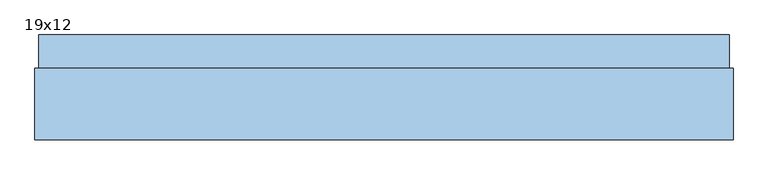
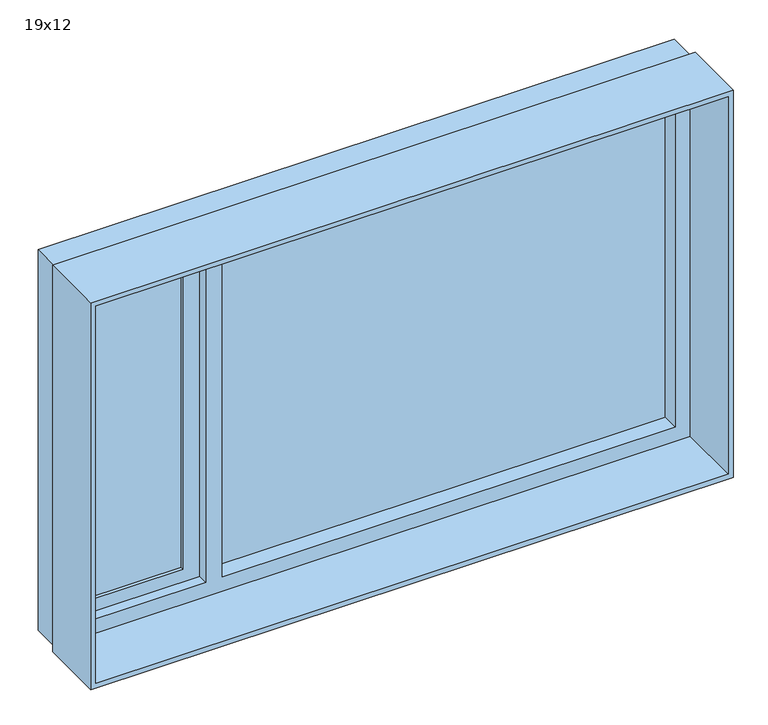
"""IFC4 building model written with IfcOpenShell, lengths in millimetres: window geometry, Vindu 2 felt med åpning side : 19x12."""

from ifc_helpers import new_model, si_unit, frame, origin, place, context, project, spatial, polyline, outline, extrude, source, transform, mapped, element, save


def window_19x12_69b69f61(model_context):
    return source(origin(), model_context, "Body", "SweptSolid", [
        extrude(outline(polyline([(-497.3982693, 95.0), (862.6017307, 95.0), (862.6017307, 75.0), (-497.3982693, 75.0), (-497.3982693, 95.0)])), frame((0.0, 0.0, 860.0), z_axis=(0.0, 0.0, 1.0), x_axis=(1.0, 0.0, 0.0)), (0.0, 0.0, 1.0), 1110.0),
        extrude(outline(polyline([(1970.0, -547.3982693), (1970.0, -947.3982693), (860.0, -947.3982693), (860.0, -547.3982693), (1970.0, -547.3982693)]), holes=[polyline([(900.0, -907.3982693), (1930.0, -907.3982693), (1930.0, -597.3982693), (900.0, -597.3982693), (900.0, -907.3982693)])]), frame((0.0, 55.0, 0.0), z_axis=(0.0, 1.0, 0.0), x_axis=(0.0, 0.0, 1.0)), (0.0, 0.0, 1.0), 40.0),
        extrude(outline(polyline([(800.0, 922.6017307), (2030.0, 922.6017307), (2030.0, -1007.3982693), (800.0, -1007.3982693), (800.0, 922.6017307)]), holes=[polyline([(815.0, 907.6017307), (815.0, -992.3982693), (2015.0, -992.3982693), (2015.0, 907.6017307), (815.0, 907.6017307)])]), frame((0.0, -175.0, 0.0), z_axis=(0.0, 1.0, 0.0), x_axis=(0.0, 0.0, 1.0)), (0.0, 0.0, 1.0), 198.0),
        extrude(outline(polyline([(-907.3982693, 85.0), (-597.3982693, 85.0), (-597.3982693, 65.0), (-907.3982693, 65.0), (-907.3982693, 85.0)])), frame((0.0, 0.0, 900.0), z_axis=(0.0, 0.0, 1.0), x_axis=(1.0, 0.0, 0.0)), (0.0, 0.0, 1.0), 1030.0),
        extrude(outline(polyline([(2020.0, -997.3982693), (810.0, -997.3982693), (810.0, 912.6017307), (2020.0, 912.6017307), (2020.0, -997.3982693)]), holes=[polyline([(1970.0, -547.3982693), (860.0, -547.3982693), (860.0, -947.3982693), (1970.0, -947.3982693), (1970.0, -547.3982693)]), polyline([(1970.0, -497.3982693), (1970.0, 862.6017307), (860.0, 862.6017307), (860.0, -497.3982693), (1970.0, -497.3982693)])]), frame((0.0, 23.0, 0.0), z_axis=(0.0, 1.0, 0.0), x_axis=(0.0, 0.0, 1.0)), (0.0, 0.0, 1.0), 92.0),
    ])


if __name__ == "__main__":
    model = new_model("IFC4")
    model_context = context("Model", 3, world=origin())
    ifc_project = project(units=[si_unit("LENGTHUNIT", "METRE", prefix="MILLI")], contexts=[model_context])
    site = spatial("IfcSite", under=ifc_project)
    building = spatial("IfcBuilding", under=site)
    placement = place(None, origin())
    window_19x12_shape = window_19x12_69b69f61(model_context)
    element("IfcWindow", 1, ObjectType="Vindu 2 felt med åpning side : 19x12", at=placement, inside=building, context=model_context, shape_type="MappedRepresentation", body=[
        mapped(window_19x12_shape, transform((0.0, 0.0, 0.0), x_axis=(1.0, 0.0, 0.0), y_axis=(0.0, 1.0, 0.0), z_axis=(0.0, 0.0, 1.0))),
    ])
    save(model, "model.ifc")
